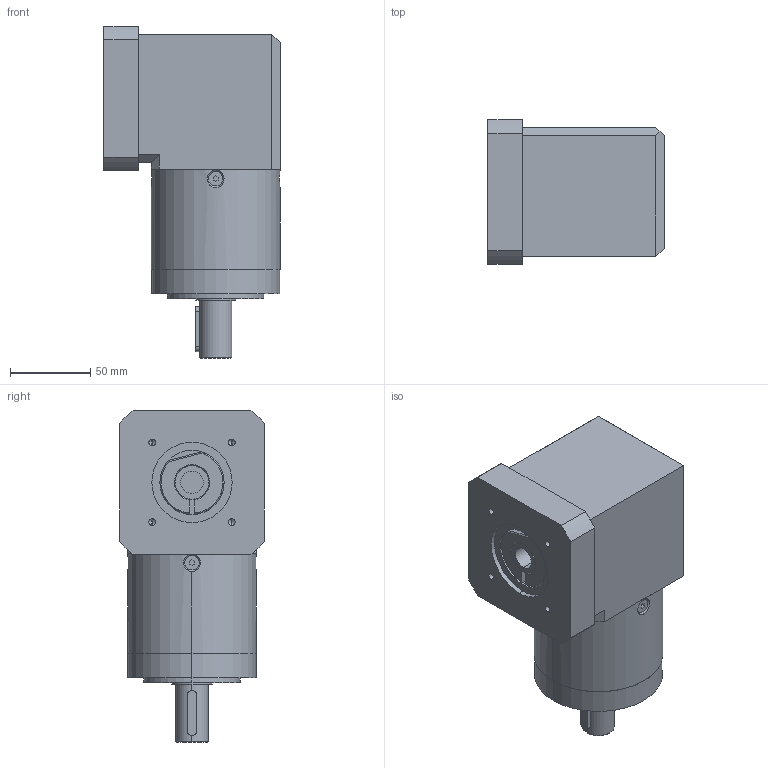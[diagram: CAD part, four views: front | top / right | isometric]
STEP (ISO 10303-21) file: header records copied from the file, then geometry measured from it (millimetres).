
FILE_DESCRIPTION (( 'STEP AP214' ), '1' );
FILE_NAME ('GBPNR-0802-CS-20-EMJ60-551.STEP', '2012-10-01T16:01:32', ( '' ), ( '' ), 'SwSTEP 2.0', 'SolidWorks 2012', '' );
FILE_SCHEMA (( 'AUTOMOTIVE_DESIGN' ));
Length unit declared in the file: millimetre
Products named in the file (1): GBPNR-0802-CS-20-EMJ60-551
Bounding box: 109.5 x 90 x 206.5 mm (x, y, z)
Surface area: 83168.1 mm2 (no closed solid volume)
Topology: 0 solids, 11 shells, 200 faces, 536 edges, 359 vertices
Faces by surface type: plane 93, cylinder 66, cone 41
Entity records: 9259 total; most frequent: CARTESIAN_POINT 2093, ORIENTED_EDGE 1018, DIRECTION 978, EDGE_CURVE 512, AXIS2_PLACEMENT_3D 364, VERTEX_POINT 359, VECTOR 250, LINE 250
